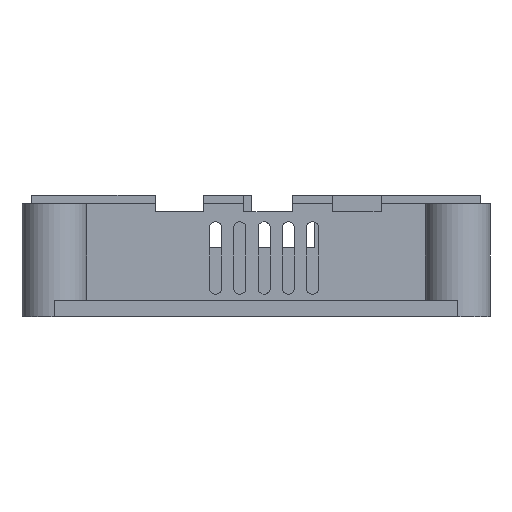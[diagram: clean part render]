
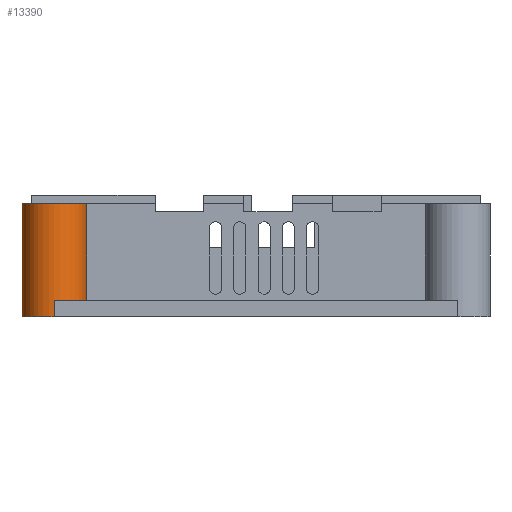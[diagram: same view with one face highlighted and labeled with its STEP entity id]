
A CAD part, left-side view. The second image highlights one B-rep face of the part: STEP entity #13390.
In plain terms, the highlighted cylindrical face has radius 4 mm (diameter 8 mm), a partial arc.
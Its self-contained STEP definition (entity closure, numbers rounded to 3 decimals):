
#280=CYLINDRICAL_SURFACE('',#14043,4.);
#873=CIRCLE('',#13818,4.);
#920=CIRCLE('',#13875,4.);
#952=CIRCLE('',#14041,4.);
#1644=FACE_OUTER_BOUND('',#2460,.T.);
#2460=EDGE_LOOP('',(#12202,#12203,#12204,#12205,#12206,#12207));
#3610=LINE('',#22529,#4985);
#3846=LINE('',#23137,#5221);
#3854=LINE('',#23167,#5229);
#4985=VECTOR('',#16031,10.);
#5221=VECTOR('',#16661,10.);
#5229=VECTOR('',#16697,10.);
#6322=VERTEX_POINT('',#22507);
#6323=VERTEX_POINT('',#22509);
#6331=VERTEX_POINT('',#22528);
#6426=VERTEX_POINT('',#22736);
#6506=VERTEX_POINT('',#23135);
#6514=VERTEX_POINT('',#23165);
#8103=EDGE_CURVE('',#6323,#6322,#873,.T.);
#8113=EDGE_CURVE('',#6331,#6323,#3610,.T.);
#8217=EDGE_CURVE('',#6331,#6426,#920,.T.);
#8415=EDGE_CURVE('',#6322,#6506,#3846,.T.);
#8428=EDGE_CURVE('',#6514,#6426,#3854,.T.);
#8433=EDGE_CURVE('',#6514,#6506,#952,.T.);
#12202=ORIENTED_EDGE('',*,*,#8428,.T.);
#12203=ORIENTED_EDGE('',*,*,#8217,.F.);
#12204=ORIENTED_EDGE('',*,*,#8113,.T.);
#12205=ORIENTED_EDGE('',*,*,#8103,.T.);
#12206=ORIENTED_EDGE('',*,*,#8415,.T.);
#12207=ORIENTED_EDGE('',*,*,#8433,.F.);
#13390=ADVANCED_FACE('',(#1644),#280,.T.);
#13818=AXIS2_PLACEMENT_3D('',#22510,#16013,#16014);
#13875=AXIS2_PLACEMENT_3D('',#22737,#16194,#16195);
#14041=AXIS2_PLACEMENT_3D('',#23176,#16710,#16711);
#14043=AXIS2_PLACEMENT_3D('',#23178,#16714,#16715);
#16013=DIRECTION('center_axis',(0.,0.,1.));
#16014=DIRECTION('ref_axis',(-0.707,0.707,0.));
#16031=DIRECTION('',(0.,0.,-1.));
#16194=DIRECTION('center_axis',(0.,0.,1.));
#16195=DIRECTION('ref_axis',(-1.,0.,0.));
#16661=DIRECTION('',(0.,0.,1.));
#16697=DIRECTION('',(0.,0.,1.));
#16710=DIRECTION('center_axis',(0.,0.,-1.));
#16711=DIRECTION('ref_axis',(-1.,0.,0.));
#16714=DIRECTION('center_axis',(0.,0.,1.));
#16715=DIRECTION('ref_axis',(-1.,0.,0.));
#22507=CARTESIAN_POINT('',(-60.,25.,0.));
#22509=CARTESIAN_POINT('',(-56.,29.,0.));
#22510=CARTESIAN_POINT('Origin',(-56.,25.,0.));
#22528=CARTESIAN_POINT('',(-56.,29.,14.));
#22529=CARTESIAN_POINT('',(-56.,29.,0.));
#22736=CARTESIAN_POINT('',(-56.,21.,14.));
#22737=CARTESIAN_POINT('Origin',(-56.,25.,14.));
#23135=CARTESIAN_POINT('',(-60.,25.,2.));
#23137=CARTESIAN_POINT('',(-60.,25.,0.));
#23165=CARTESIAN_POINT('',(-56.,21.,2.));
#23167=CARTESIAN_POINT('',(-56.,21.,2.));
#23176=CARTESIAN_POINT('Origin',(-56.,25.,2.));
#23178=CARTESIAN_POINT('Origin',(-56.,25.,2.));
